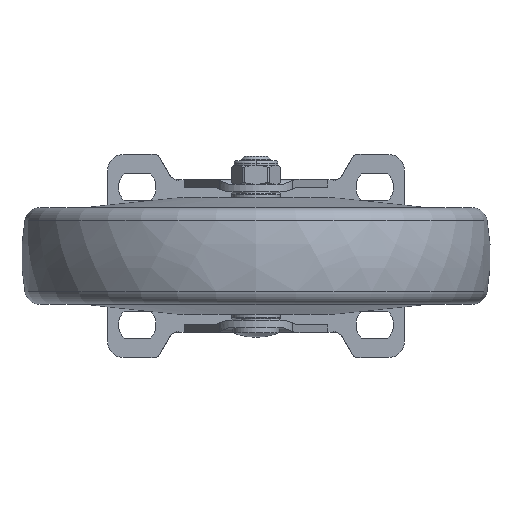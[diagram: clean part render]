
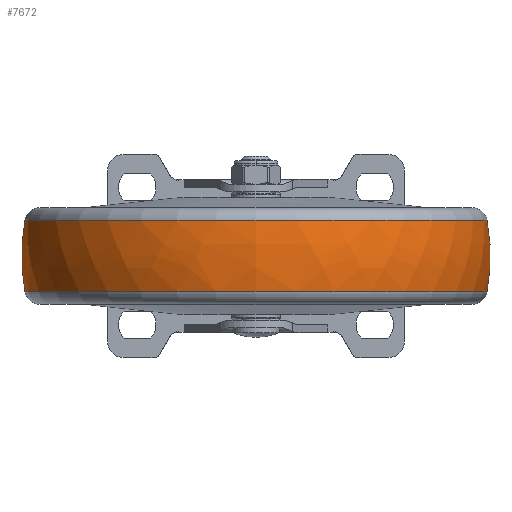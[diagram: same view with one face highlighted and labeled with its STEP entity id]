
A CAD part, front view. The second image highlights one B-rep face of the part: STEP entity #7672.
In plain terms, the highlighted free-form (B-spline) face has degree [3, 3] with [7, 4] control points.
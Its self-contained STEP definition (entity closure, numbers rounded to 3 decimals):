
#6901=CARTESIAN_POINT('',(-11.405,0.,0.));
#6902=DIRECTION('',(-1.,0.,0.));
#6903=DIRECTION('',(0.,1.,0.));
#6904=AXIS2_PLACEMENT_3D('',#6901,#6902,#6903);
#6916=CARTESIAN_POINT('',(0.,12.018,0.));
#6917=DIRECTION('',(0.,0.,1.));
#6918=DIRECTION('',(0.181,0.983,0.));
#6919=AXIS2_PLACEMENT_3D('',#6916,#6917,#6918);
#6921=CARTESIAN_POINT('',(0.,-12.018,0.));
#6922=DIRECTION('',(0.,0.,-1.));
#6923=DIRECTION('',(0.181,-0.983,0.));
#6924=AXIS2_PLACEMENT_3D('',#6921,#6922,#6923);
#6926=CARTESIAN_POINT('',(11.405,0.,0.));
#6927=DIRECTION('',(-1.,0.,0.));
#6928=DIRECTION('',(0.,1.,0.));
#6929=AXIS2_PLACEMENT_3D('',#6926,#6927,#6928);
#7178=CARTESIAN_POINT('',(11.405,73.977,0.));
#7180=VERTEX_POINT('',#7178);
#7181=CARTESIAN_POINT('',(-11.405,73.977,0.));
#7182=VERTEX_POINT('',#7181);
#7230=CARTESIAN_POINT('',(11.405,-73.977,
0.));
#7232=VERTEX_POINT('',#7230);
#7233=CARTESIAN_POINT('',(-11.405,-73.977,
0.));
#7234=VERTEX_POINT('',#7233);
#7636=CARTESIAN_POINT('',(-11.856,-73.746,
4.64));
#7637=CARTESIAN_POINT('',(-4.,-75.249,
4.734));
#7638=CARTESIAN_POINT('',(4.,-75.249,4.734));
#7639=CARTESIAN_POINT('',(11.856,-73.746,4.64));
#7640=CARTESIAN_POINT('',(-11.856,-76.601,
-40.744));
#7641=CARTESIAN_POINT('',(-4.,-78.162,
-41.574));
#7642=CARTESIAN_POINT('',(4.,-78.162,
-41.574));
#7643=CARTESIAN_POINT('',(11.856,-76.601,
-40.744));
#7644=CARTESIAN_POINT('',(-11.856,-45.473,
-73.892));
#7645=CARTESIAN_POINT('',(-4.,-46.399,
-75.397));
#7646=CARTESIAN_POINT('',(4.,-46.399,
-75.397));
#7647=CARTESIAN_POINT('',(11.856,-45.473,
-73.892));
#7648=CARTESIAN_POINT('',(-11.856,0.,
-73.892));
#7649=CARTESIAN_POINT('',(-4.,0.,
-75.397));
#7650=CARTESIAN_POINT('',(4.,0.,
-75.397));
#7651=CARTESIAN_POINT('',(11.856,0.,
-73.892));
#7652=CARTESIAN_POINT('',(-11.856,45.473,
-73.892));
#7653=CARTESIAN_POINT('',(-4.,46.399,
-75.397));
#7654=CARTESIAN_POINT('',(4.,46.399,-75.397));
#7655=CARTESIAN_POINT('',(11.856,45.473,-73.892));
#7656=CARTESIAN_POINT('',(-11.856,76.601,
-40.744));
#7657=CARTESIAN_POINT('',(-4.,78.162,
-41.574));
#7658=CARTESIAN_POINT('',(4.,78.162,-41.574));
#7659=CARTESIAN_POINT('',(11.856,76.601,-40.744));
#7660=CARTESIAN_POINT('',(-11.856,73.746,4.64));
#7661=CARTESIAN_POINT('',(-4.,75.249,4.734));
#7662=CARTESIAN_POINT('',(4.,75.249,4.734));
#7663=CARTESIAN_POINT('',(11.856,73.746,4.64));
#7664=(BOUNDED_SURFACE()B_SPLINE_SURFACE(3,3,((#7636,#7637,#7638,#7639),(#7640,
#7641,#7642,#7643),(#7644,#7645,#7646,#7647),(#7648,#7649,#7650,#7651),(#7652,
#7653,#7654,#7655),(#7656,#7657,#7658,#7659),(#7660,#7661,#7662,#7663)),
.UNSPECIFIED.,.F.,.F.,.F.)B_SPLINE_SURFACE_WITH_KNOTS((4,3,4),(4,4),(0.,1.,
2.),(0.,1.),.UNSPECIFIED.)GEOMETRIC_REPRESENTATION_ITEM()RATIONAL_B_SPLINE_SURFACE(((1.198,1.184,1.184,1.198),(
0.946,0.935,0.935,0.946),(
0.946,0.935,0.935,0.946),(
1.198,1.184,1.184,1.198),(
0.946,0.935,0.935,0.946),(
0.946,0.935,0.935,0.946),(
1.198,1.184,1.184,1.198)))REPRESENTATION_ITEM('')SURFACE());
#7665=ORIENTED_EDGE('',*,*,#7626,.T.);
#7666=ORIENTED_EDGE('',*,*,#7579,.T.);
#7667=ORIENTED_EDGE('',*,*,#7630,.F.);
#7669=ORIENTED_EDGE('',*,*,#7668,.F.);
#7670=EDGE_LOOP('',(#7665,#7666,#7667,#7669));
#7671=FACE_OUTER_BOUND('',#7670,.F.);
#6905=CIRCLE('',#6904,73.977);
#6920=CIRCLE('',#6919,63.);
#6925=CIRCLE('',#6924,63.);
#6930=CIRCLE('',#6929,73.977);
#7579=EDGE_CURVE('',#7182,#7234,#6905,.T.);
#7626=EDGE_CURVE('',#7180,#7182,#6920,.T.);
#7630=EDGE_CURVE('',#7232,#7234,#6925,.T.);
#7668=EDGE_CURVE('',#7180,#7232,#6930,.T.);
#7672=ADVANCED_FACE('',(#7671),#7664,.T.);
